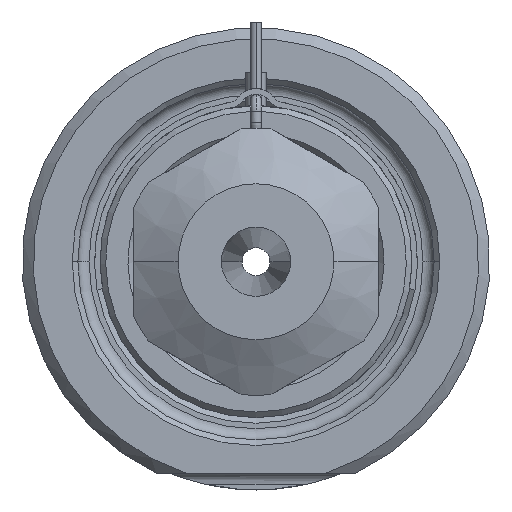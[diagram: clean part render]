
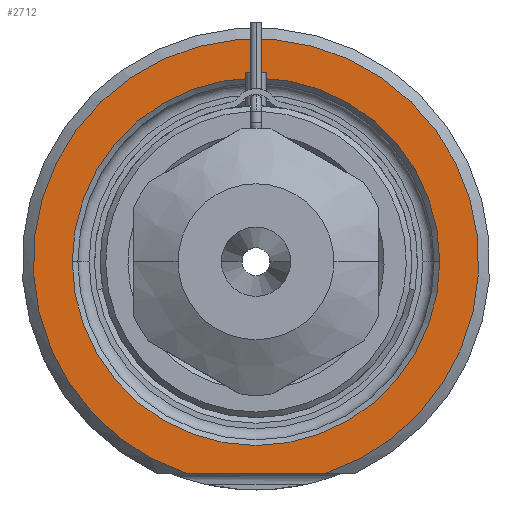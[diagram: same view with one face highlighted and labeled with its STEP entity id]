
A CAD part, front view. The second image highlights one B-rep face of the part: STEP entity #2712.
In plain terms, the highlighted planar face has unit normal (0, -1, 0).
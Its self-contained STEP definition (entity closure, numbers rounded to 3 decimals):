
#1=DIRECTION('',(1.,0.,0.));
#2=VECTOR('',#1,12.49);
#3=CARTESIAN_POINT('',(-6.245,0.,-19.));
#4=LINE('',#3,#2);
#5=CARTESIAN_POINT('',(0.,0.,0.));
#6=DIRECTION('',(0.,1.,0.));
#7=DIRECTION('',(-1.,0.,0.));
#8=AXIS2_PLACEMENT_3D('',#5,#6,#7);
#10=CARTESIAN_POINT('',(0.,0.,0.));
#11=DIRECTION('',(0.,1.,0.));
#12=DIRECTION('',(1.,0.,0.));
#13=AXIS2_PLACEMENT_3D('',#10,#11,#12);
#119=CARTESIAN_POINT('',(0.,0.,0.));
#120=DIRECTION('',(0.,-1.,0.));
#121=DIRECTION('',(0.312,0.,-0.95));
#122=AXIS2_PLACEMENT_3D('',#119,#120,#121);
#2259=CARTESIAN_POINT('',(-16.5,0.,0.));
#2260=CARTESIAN_POINT('',(16.5,0.,0.));
#2261=VERTEX_POINT('',#2259);
#2262=VERTEX_POINT('',#2260);
#2313=CARTESIAN_POINT('',(-6.245,0.,-19.));
#2314=CARTESIAN_POINT('',(6.245,0.,-19.));
#2315=VERTEX_POINT('',#2313);
#2316=VERTEX_POINT('',#2314);
#2695=CARTESIAN_POINT('',(0.,0.,0.));
#2696=DIRECTION('',(0.,-1.,0.));
#2697=DIRECTION('',(1.,0.,0.));
#2698=AXIS2_PLACEMENT_3D('',#2695,#2696,#2697);
#2699=PLANE('',#2698);
#2701=ORIENTED_EDGE('',*,*,#2700,.F.);
#2703=ORIENTED_EDGE('',*,*,#2702,.F.);
#2704=EDGE_LOOP('',(#2701,#2703));
#2705=FACE_OUTER_BOUND('',#2704,.F.);
#2707=ORIENTED_EDGE('',*,*,#2706,.F.);
#2709=ORIENTED_EDGE('',*,*,#2708,.F.);
#2710=EDGE_LOOP('',(#2707,#2709));
#2711=FACE_BOUND('',#2710,.F.);
#2712=ADVANCED_FACE('',(#2705,#2711),#2699,.T.);
#9=CIRCLE('',#8,16.5);
#14=CIRCLE('',#13,16.5);
#123=CIRCLE('',#122,20.);
#2700=EDGE_CURVE('',#2315,#2316,#4,.T.);
#2702=EDGE_CURVE('',#2316,#2315,#123,.T.);
#2706=EDGE_CURVE('',#2261,#2262,#9,.T.);
#2708=EDGE_CURVE('',#2262,#2261,#14,.T.);
